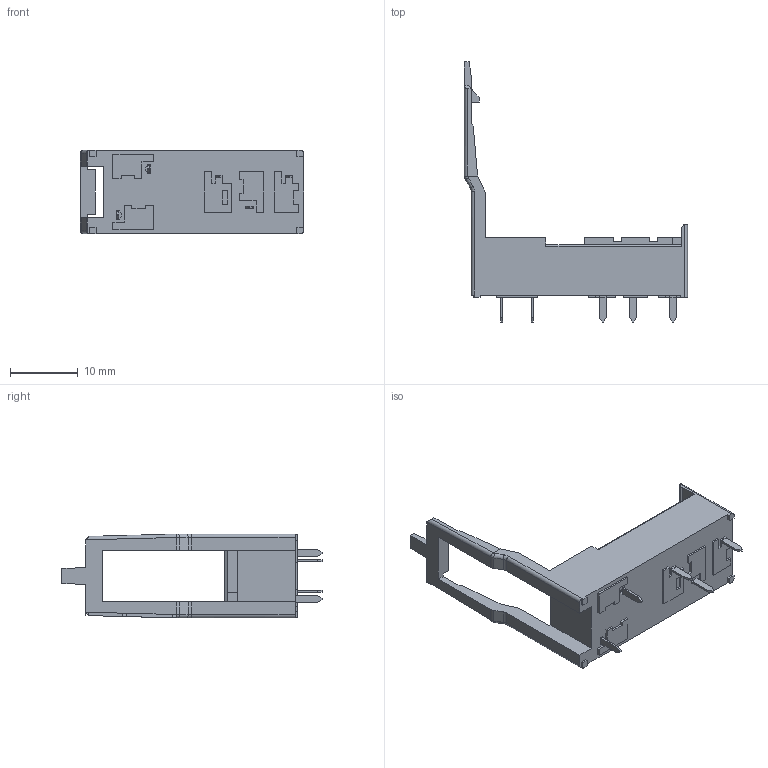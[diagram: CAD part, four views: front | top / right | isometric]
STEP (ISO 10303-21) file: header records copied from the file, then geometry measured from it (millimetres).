
FILE_DESCRIPTION(/* description */ ('Unknown'),/* implementation_level */ '2;1');
FILE_NAME(/* name */ '9711',/* time_stamp */ '2018-05-09T14:15:26+02:00',/* author */ ('Unknown'),/* organization */ ('Unknown'),/* preprocessor_version */ 'ST-DEVELOPER v16.7',/* originating_system */ 'DEX',/* authorisation */ $);
FILE_SCHEMA (('AUTOMOTIVE_DESIGN {1 0 10303 214 3 1 1}'));
Length unit declared in the file: millimetre
Products named in the file (1): 97.11_b
Bounding box: 33 x 38.5 x 12.4 mm (x, y, z)
Surface area: 3520.2 mm2
Topology: 2 solids, 6 shells, 476 faces, 1315 edges, 837 vertices
Faces by surface type: plane 427, cylinder 37, sphere 8, torus 4
Entity records: 17574 total; most frequent: CARTESIAN_POINT 2648, ORIENTED_EDGE 2560, DIRECTION 2333, EDGE_CURVE 1307, LINE 1219, VECTOR 1219, VERTEX_POINT 837, AXIS2_PLACEMENT_3D 557
